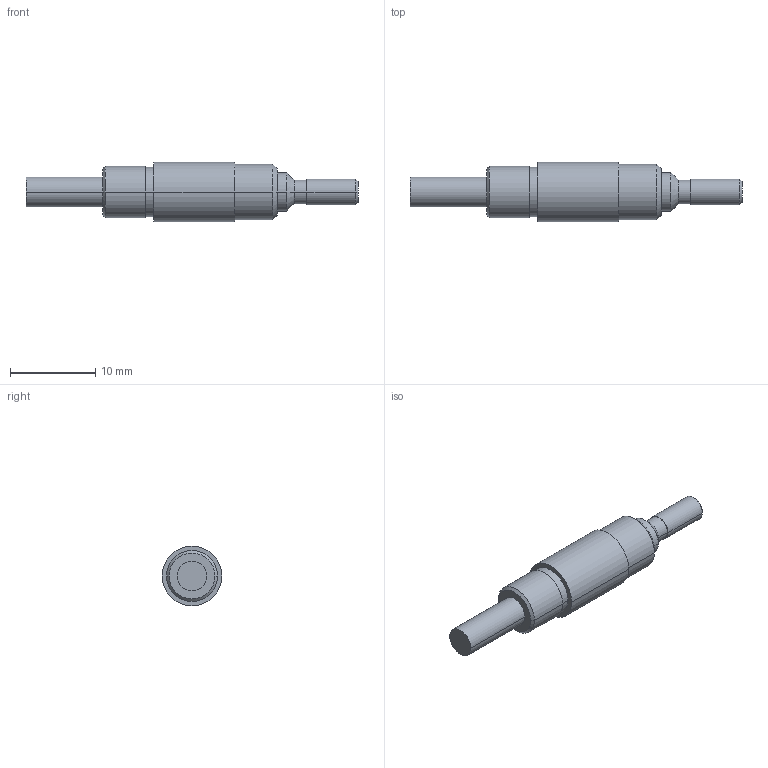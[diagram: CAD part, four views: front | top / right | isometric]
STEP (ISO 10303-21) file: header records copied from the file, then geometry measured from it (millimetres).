
FILE_DESCRIPTION(('Creo Elements/Direct Modeling STEP Export'),'2;1');
FILE_NAME('04AZA160_AS-6.5.stp','2014-02-06T17:39:34',(''),(''),'Creo Elements/Direct Modeling STEP processor for AP214 (Solid Model)','Creo Elements/Direct Modeling 18.1B 29-Sep-2012 (C) Parametric Technology GmbH','');
FILE_SCHEMA(('AUTOMOTIVE_DESIGN { 1 0 10303 214 1 1 1 1 }'));
Length unit declared in the file: millimetre
Products named in the file (1): 04AZA160_AS-6.5
Bounding box: 39 x 7 x 7 mm (x, y, z)
Volume: 861.3 mm3; surface area: 683.5 mm2
Topology: 1 solids, 1 shells, 32 faces, 62 edges, 38 vertices
Faces by surface type: cylinder 16, plane 8, cone 8
Entity records: 751 total; most frequent: DIRECTION 128, ORIENTED_EDGE 124, CARTESIAN_POINT 114, EDGE_CURVE 62, AXIS2_PLACEMENT_3D 52, VERTEX_POINT 38, EDGE_LOOP 38, FACE_OUTER_BOUND 32
